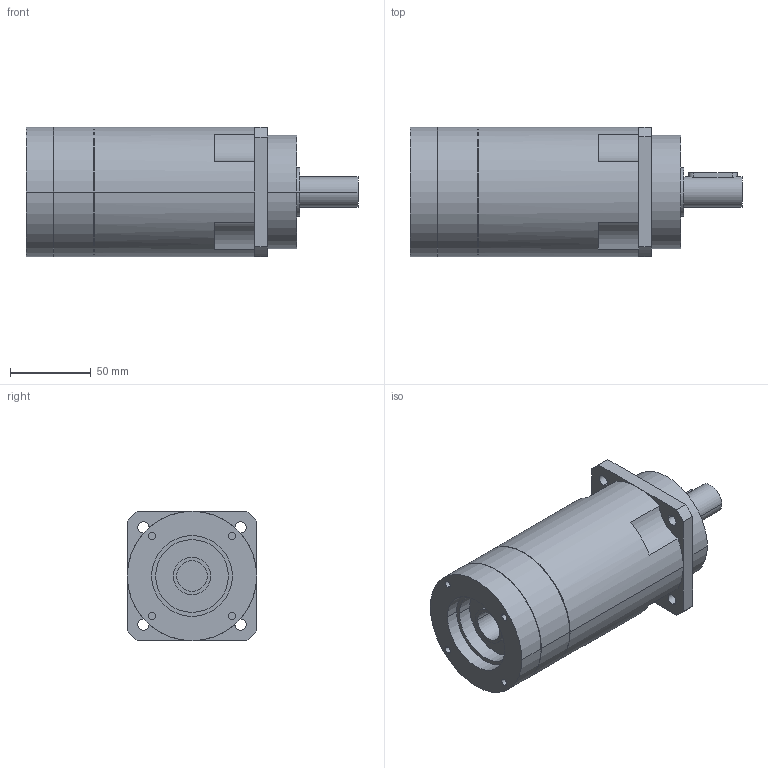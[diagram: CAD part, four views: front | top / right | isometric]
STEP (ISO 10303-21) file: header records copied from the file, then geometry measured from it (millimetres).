
FILE_DESCRIPTION(('CoCreate Modeling STEP Export'),'2;1');
FILE_NAME('GPR100_ig-48-64-80-100-120-144-180-216_19_B5_19_P15.stp','2014-08-26T11:56:54',(''),(''),'CoCreate Modeling STEP processor for AP214 (Solid Model)','CoCreate Modeling 16.00C 25-Feb-2009 (C) Parametric Technology GmbH','');
FILE_SCHEMA(('AUTOMOTIVE_DESIGN { 1 0 10303 214 1 1 1 1 }'));
Length unit declared in the file: millimetre
Products named in the file (2): GPR100_ig-48-64-80-100-120-144-180-216_19_B5_19_P15
Assembly tree (1 placements, depth 2):
  GPR100_ig-48-64-80-100-120-144-180-216_19_B5_19_P15
    GPR100_ig-48-64-80-100-120-144-180-216_19_B5_19_P15
Bounding box: 205.4 x 80 x 80 mm (x, y, z)
Volume: 793589 mm3; surface area: 65161.7 mm2
Topology: 1 solids, 1 shells, 96 faces, 253 edges, 175 vertices
Faces by surface type: cylinder 56, plane 34, cone 6
Entity records: 2624 total; most frequent: ORIENTED_EDGE 502, CARTESIAN_POINT 471, DIRECTION 376, EDGE_CURVE 251, VERTEX_POINT 175, AXIS2_PLACEMENT_3D 144, EDGE_LOOP 122, FACE_OUTER_BOUND 96
